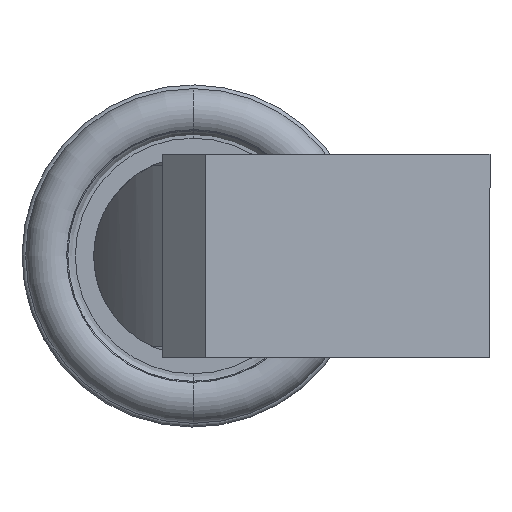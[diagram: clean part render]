
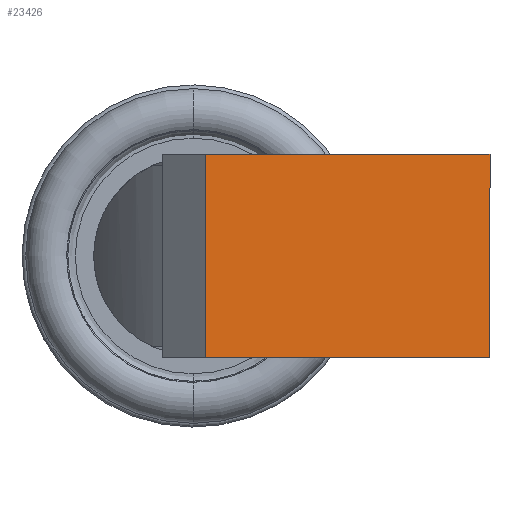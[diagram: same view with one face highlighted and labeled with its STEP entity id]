
A CAD part, left-side view. The second image highlights one B-rep face of the part: STEP entity #23426.
In plain terms, the highlighted planar face has unit normal (-0.998, -0.069, 0).
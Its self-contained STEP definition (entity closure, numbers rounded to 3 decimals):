
#266 = CARTESIAN_POINT ( 'NONE',  ( -138.878, -9.648, -4.1 ) ) ;
#623 = CARTESIAN_POINT ( 'NONE',  ( -138.878, -9.648, -15. ) ) ;
#900 = CARTESIAN_POINT ( 'NONE',  ( -138.716, -11.973, 4.1 ) ) ;
#1111 = CARTESIAN_POINT ( 'NONE',  ( -139.513, -0.5, 4.1 ) ) ;
#2358 = VECTOR ( 'NONE', #8236, 1000. ) ;
#2617 = DIRECTION ( 'NONE',  ( 0., 0., 1. ) ) ;
#3141 = ORIENTED_EDGE ( 'NONE', *, *, #6030, .F. ) ;
#4197 = LINE ( 'NONE', #10491, #11544 ) ;
#4213 = CARTESIAN_POINT ( 'NONE',  ( -139.513, -0.5, -4.1 ) ) ;
#4295 = FACE_OUTER_BOUND ( 'NONE', #21200, .T. ) ;
#4717 = VECTOR ( 'NONE', #15357, 1000. ) ;
#6030 = EDGE_CURVE ( 'NONE', #6123, #6761, #7243, .T. ) ;
#6123 = VERTEX_POINT ( 'NONE', #4213 ) ;
#6172 = LINE ( 'NONE', #266, #19513 ) ;
#6761 = VERTEX_POINT ( 'NONE', #1111 ) ;
#7243 = LINE ( 'NONE', #23133, #4717 ) ;
#7834 = LINE ( 'NONE', #22146, #2358 ) ;
#8236 = DIRECTION ( 'NONE',  ( -0.069, 0.998, 0. ) ) ;
#10491 = CARTESIAN_POINT ( 'NONE',  ( -138.716, -11.973, -15. ) ) ;
#11141 = VERTEX_POINT ( 'NONE', #22326 ) ;
#11544 = VECTOR ( 'NONE', #2617, 1000. ) ;
#12334 = DIRECTION ( 'NONE',  ( -0.069, 0.998, 0. ) ) ;
#12852 = ORIENTED_EDGE ( 'NONE', *, *, #18149, .T. ) ;
#15357 = DIRECTION ( 'NONE',  ( 0., 0., 1. ) ) ;
#15534 = EDGE_CURVE ( 'NONE', #19118, #6761, #7834, .T. ) ;
#16491 = PLANE ( 'NONE',  #17376 ) ;
#17376 = AXIS2_PLACEMENT_3D ( 'NONE', #623, #24665, #20583 ) ;
#18149 = EDGE_CURVE ( 'NONE', #11141, #19118, #4197, .T. ) ;
#19118 = VERTEX_POINT ( 'NONE', #900 ) ;
#19513 = VECTOR ( 'NONE', #12334, 1000. ) ;
#20583 = DIRECTION ( 'NONE',  ( -0.069, 0.998, 0. ) ) ;
#20879 = ORIENTED_EDGE ( 'NONE', *, *, #15534, .T. ) ;
#21200 = EDGE_LOOP ( 'NONE', ( #24972, #12852, #20879, #3141 ) ) ;
#22146 = CARTESIAN_POINT ( 'NONE',  ( -138.878, -9.648, 4.1 ) ) ;
#22326 = CARTESIAN_POINT ( 'NONE',  ( -138.716, -11.973, -4.1 ) ) ;
#22619 = EDGE_CURVE ( 'NONE', #11141, #6123, #6172, .T. ) ;
#23133 = CARTESIAN_POINT ( 'NONE',  ( -139.513, -0.5, -15. ) ) ;
#23426 = ADVANCED_FACE ( 'NONE', ( #4295 ), #16491, .F. ) ;
#24665 = DIRECTION ( 'NONE',  ( 0.998, 0.069, 0. ) ) ;
#24972 = ORIENTED_EDGE ( 'NONE', *, *, #22619, .F. ) ;
